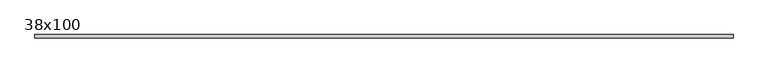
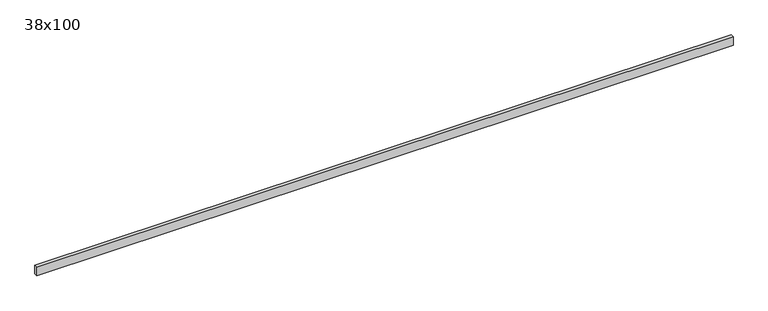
"""IFC4 building model written with IfcOpenShell, lengths in millimetres: beam geometry, Poutre - Bois de construction de dimensions courantes : 38x100."""

import ifcopenshell
import ifcopenshell.guid

model = None  # the IFC model being written
_history = None  # IfcOwnerHistory: only IFC2X3 demands one
_inside = {}  # id of a spatial element -> (the spatial element, [elements in it])
_under = {}  # id of a project, library or spatial element -> (it, [spatial elements below it])
_declared = {}  # id of a project -> (the project, [libraries it declares])
_typed = {}  # id of a type object -> (the type object, [elements of that type])
_made_of = {}  # id of a material, layer set ... -> (it, [elements and type objects made of it])


def new_model(schema):
    """Start an empty IFC model of exactly this schema.

    Asked for "IFC4X3", IfcOpenShell would pick the latest addendum, in which some entities
    have other attributes; the version numbers below select the first issue.
    IFC2X3 requires an IfcOwnerHistory on every rooted entity: one is made here for all.
    """
    global model, _history
    if schema == "IFC4X3":
        model = ifcopenshell.file(schema_version=(4, 3, 0, 0))
    else:
        model = ifcopenshell.file(schema=schema)
    _inside.clear()
    _under.clear()
    _declared.clear()
    _typed.clear()
    _made_of.clear()
    _history = None
    if model.schema == "IFC2X3":
        org = make("IfcOrganization", Name="unknown")
        user = make(
            "IfcPersonAndOrganization",
            ThePerson=make("IfcPerson", FamilyName="unknown"),
            TheOrganization=org,
        )
        app = make(
            "IfcApplication",
            ApplicationDeveloper=org,
            Version="unknown",
            ApplicationFullName="unknown",
            ApplicationIdentifier="unknown",
        )
        _history = make(
            "IfcOwnerHistory",
            OwningUser=user,
            OwningApplication=app,
            ChangeAction="ADDED",
            CreationDate=0,
        )
    return model


def make(cls, **values):
    """One entity of the class cls with the attributes given. An attribute that is None is left unset."""
    return model.create_entity(
        cls, **{name: value for name, value in values.items() if value is not None}
    )


def rooted(cls, **values):
    """An entity with a GlobalId (a new one), such as an element, a storey or a relation."""
    return make(cls, GlobalId=ifcopenshell.guid.new(), OwnerHistory=_history, **values)


def si_unit(unit_type, name, prefix=None):
    """IfcSIUnit, for example si_unit("LENGTHUNIT", "METRE", prefix="MILLI")."""
    return make("IfcSIUnit", UnitType=unit_type, Prefix=prefix, Name=name)


def assignment(units):
    """IfcUnitAssignment: the units of a project."""
    return None if units is None else make("IfcUnitAssignment", Units=units)


def point(xyz):
    """IfcCartesianPoint."""
    return None if xyz is None else make("IfcCartesianPoint", Coordinates=xyz)


def direction(xyz):
    """IfcDirection."""
    return None if xyz is None else make("IfcDirection", DirectionRatios=xyz)


def frame(location, z_axis=None, x_axis=None):
    """IfcAxis2Placement3D, a coordinate frame: its origin and axes. An axis left out is left unset."""
    return make(
        "IfcAxis2Placement3D",
        Location=point(location),
        Axis=direction(z_axis),
        RefDirection=direction(x_axis),
    )


def origin():
    """The frame at (0, 0, 0) with its axes left unset."""
    return frame((0.0, 0.0, 0.0))


def place(relative_to, where):
    """IfcLocalPlacement: puts the frame where relative to a parent placement (None: the world)."""
    return make(
        "IfcLocalPlacement", PlacementRelTo=relative_to, RelativePlacement=where
    )


def context(
    kind, dimensions, precision=None, world=None, true_north=None, identifier=None
):
    """IfcGeometricRepresentationContext, for example the 3D "Model" context."""
    return make(
        "IfcGeometricRepresentationContext",
        ContextIdentifier=identifier,
        ContextType=kind,
        CoordinateSpaceDimension=dimensions,
        Precision=precision,
        WorldCoordinateSystem=world,
        TrueNorth=true_north,
    )


def project(units=None, contexts=None):
    """IfcProject with its units and contexts."""
    return rooted(
        "IfcProject",
        Name="project",
        RepresentationContexts=contexts,
        UnitsInContext=assignment(units),
    )


def spatial(cls, under=None, at=None, **own):
    """A site, building, storey or space (cls), placed at a placement, below another one or the project."""
    s = rooted(cls, ObjectPlacement=at, **own)
    if under is not None:
        _under.setdefault(under.id(), (under, []))[1].append(s)
    return s


def polyline(points):
    """IfcPolyline through the points."""
    return make("IfcPolyline", Points=[point(p) for p in points])


def outline(outer, holes=None, kind="AREA"):
    """IfcArbitraryClosedProfileDef: a profile drawn as a closed curve; with holes, ...WithVoids."""
    if holes is None:
        return make("IfcArbitraryClosedProfileDef", ProfileType=kind, OuterCurve=outer)
    return make(
        "IfcArbitraryProfileDefWithVoids",
        ProfileType=kind,
        OuterCurve=outer,
        InnerCurves=holes,
    )


def extrude(swept, where, along, depth):
    """IfcExtrudedAreaSolid: the profile swept, set in the frame where, extruded along a direction by depth."""
    return make(
        "IfcExtrudedAreaSolid",
        SweptArea=swept,
        Position=where,
        ExtrudedDirection=direction(along),
        Depth=depth,
    )


def shape(context_of_items, identifier, shape_type, items):
    """IfcShapeRepresentation: the items that make up one representation, for example the "Body"."""
    return make(
        "IfcShapeRepresentation",
        ContextOfItems=context_of_items,
        RepresentationIdentifier=identifier,
        RepresentationType=shape_type,
        Items=items,
    )


def source(mapping_origin, context_of_items, identifier, shape_type, items):
    """IfcRepresentationMap: a shape defined once, which mapped items show again and again."""
    return make(
        "IfcRepresentationMap",
        MappingOrigin=mapping_origin,
        MappedRepresentation=shape(context_of_items, identifier, shape_type, items),
    )


def transform(
    local_origin,
    x_axis=None,
    y_axis=None,
    z_axis=None,
    scale=None,
    scale2=None,
    scale3=None,
    uniform=True,
):
    """IfcCartesianTransformationOperator3D, or its non-uniform kind. x_axis, y_axis, z_axis: its Axis1, 2, 3."""
    if uniform:
        return make(
            "IfcCartesianTransformationOperator3D",
            Axis1=direction(x_axis),
            Axis2=direction(y_axis),
            LocalOrigin=point(local_origin),
            Scale=scale,
            Axis3=direction(z_axis),
        )
    return make(
        "IfcCartesianTransformationOperator3DnonUniform",
        Axis1=direction(x_axis),
        Axis2=direction(y_axis),
        LocalOrigin=point(local_origin),
        Scale=scale,
        Axis3=direction(z_axis),
        Scale2=scale2,
        Scale3=scale3,
    )


def mapped(mapping_source, mapping_target):
    """IfcMappedItem: shows the shape of a source again, moved by a transform."""
    return make(
        "IfcMappedItem", MappingSource=mapping_source, MappingTarget=mapping_target
    )


def made_of(thing, what):
    """Note that an element or type object is made of a material, layer set ...; save() writes the relation."""
    if what is not None:
        _made_of.setdefault(what.id(), (what, []))[1].append(thing)
    return thing


def element(
    cls,
    number,
    at=None,
    inside=None,
    cuts=None,
    type_object=None,
    material=None,
    context=None,
    identifier="Body",
    shape_type=None,
    held_by="IfcProductDefinitionShape",
    body=None,
    shapes=None,
    **own,
):
    """One element of the class cls, such as IfcWall. Its Tag is "e" and its number.

    at: its placement. inside: the storey or other place that contains it. cuts: it is an
    opening in that element (IfcRelVoidsElement). A single representation is given by context,
    identifier, shape_type and body (its items); several are given by shapes. held_by: the class
    of the entity that holds the representations. save() writes the other relations.
    """
    e = rooted(cls, Tag="e%d" % number, ObjectPlacement=at, **own)
    if body is not None:
        shapes = [shape(context, identifier, shape_type, body)]
    if shapes is not None:
        e.Representation = make(held_by, Representations=shapes)
    if inside is not None:
        _inside.setdefault(inside.id(), (inside, []))[1].append(e)
    if cuts is not None:
        rooted(
            "IfcRelVoidsElement", RelatingBuildingElement=cuts, RelatedOpeningElement=e
        )
    if type_object is not None:
        _typed.setdefault(type_object.id(), (type_object, []))[1].append(e)
    return made_of(e, material)


def aggregate(whole, parts):
    """IfcRelAggregates: a whole, such as a stair, and the parts it consists of."""
    return rooted("IfcRelAggregates", RelatingObject=whole, RelatedObjects=parts)


def save(model, path):
    """Write the relations noted so far, then the file.

    IfcRelAggregates (storeys below a building ...), IfcRelContainedInSpatialStructure (elements
    in a storey), IfcRelDefinesByType, IfcRelAssociatesMaterial and IfcRelDeclares: one each for
    every whole, place, type object, material and project.
    """
    for whole, parts in _under.values():
        aggregate(whole, parts)
    for where, things in _inside.values():
        rooted(
            "IfcRelContainedInSpatialStructure",
            RelatedElements=things,
            RelatingStructure=where,
        )
    for kind, things in _typed.values():
        rooted("IfcRelDefinesByType", RelatedObjects=things, RelatingType=kind)
    for what, things in _made_of.values():
        rooted("IfcRelAssociatesMaterial", RelatedObjects=things, RelatingMaterial=what)
    for by, libraries in _declared.values():
        rooted("IfcRelDeclares", RelatingContext=by, RelatedDefinitions=libraries)
    model.write(path)


def beam_38x100_633009c7(model_context):
    return source(origin(), model_context, "Body", "SweptSolid", [
        extrude(outline(polyline([(4002.0, 19.05), (4002.0, -19.05), (-4002.0, -19.05), (-4002.0, 19.05), (4002.0, 19.05)])), frame((0.0, 0.0, -50.0), z_axis=(0.0, 0.0, 1.0), x_axis=(1.0, 0.0, 0.0)), (0.0, 0.0, 1.0), 100.0),
    ])


if __name__ == "__main__":
    model = new_model("IFC4")
    model_context = context("Model", 3, world=origin())
    ifc_project = project(units=[si_unit("LENGTHUNIT", "METRE", prefix="MILLI")], contexts=[model_context])
    site = spatial("IfcSite", under=ifc_project)
    building = spatial("IfcBuilding", under=site)
    placement = place(None, origin())
    beam_38x100_shape = beam_38x100_633009c7(model_context)
    element("IfcBeam", 1, ObjectType="Poutre - Bois de construction de dimensions courantes : 38x100", at=placement, inside=building, context=model_context, shape_type="MappedRepresentation", body=[
        mapped(beam_38x100_shape, transform((0.0, 0.0, 0.0), x_axis=(1.0, 0.0, 0.0), y_axis=(0.0, 1.0, 0.0), z_axis=(0.0, 0.0, 1.0))),
    ])
    save(model, "model.ifc")
